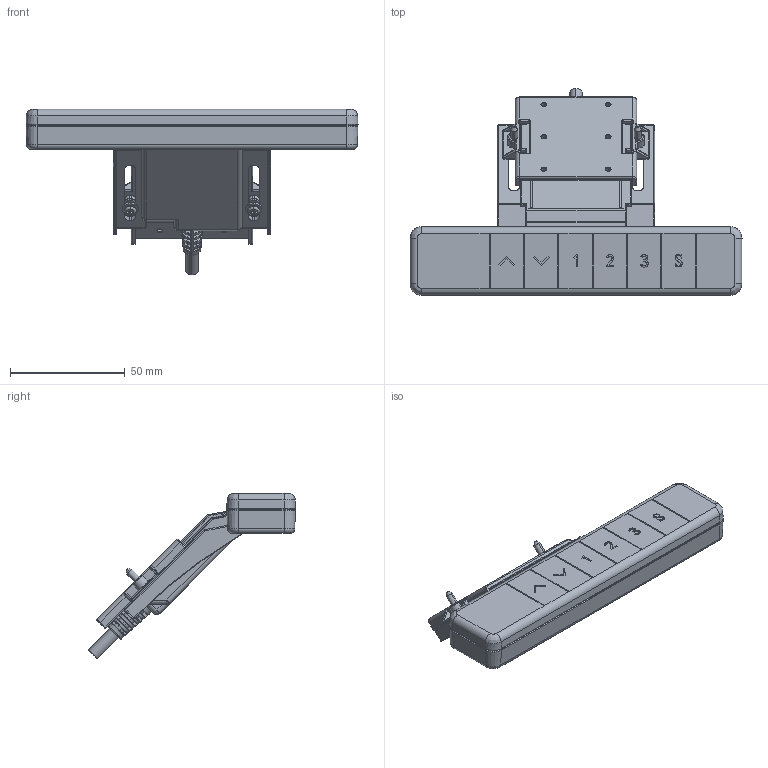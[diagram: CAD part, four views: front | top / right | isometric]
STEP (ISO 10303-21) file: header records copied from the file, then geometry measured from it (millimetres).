
FILE_DESCRIPTION((''),'2;1');
FILE_NAME('DP07_11','2020-06-13T',('USER'),(''),'PRO/ENGINEER BY PARAMETRIC TECHNOLOGY CORPORATION, 2016240','PRO/ENGINEER BY PARAMETRIC TECHNOLOGY CORPORATION, 2016240','');
FILE_SCHEMA(('CONFIG_CONTROL_DESIGN'));
Length unit declared in the file: millimetre
Products named in the file (1): DP07_11
Bounding box: 144.98 x 90.34 x 72.37 mm (x, y, z)
Volume: 48406.6 mm3; surface area: 53255.1 mm2
Topology: 1 solids, 4 shells, 1295 faces, 3323 edges, 2053 vertices
Faces by surface type: plane 535, cylinder 437, torus 134, sphere 60, cone 59, bspline 51, extrusion 19
Entity records: 45940 total; most frequent: CARTESIAN_POINT 14748, ORIENTED_EDGE 6646, DIRECTION 6404, EDGE_CURVE 3323, AXIS2_PLACEMENT_3D 2291, VERTEX_POINT 2053, VECTOR 1822, LINE 1803
